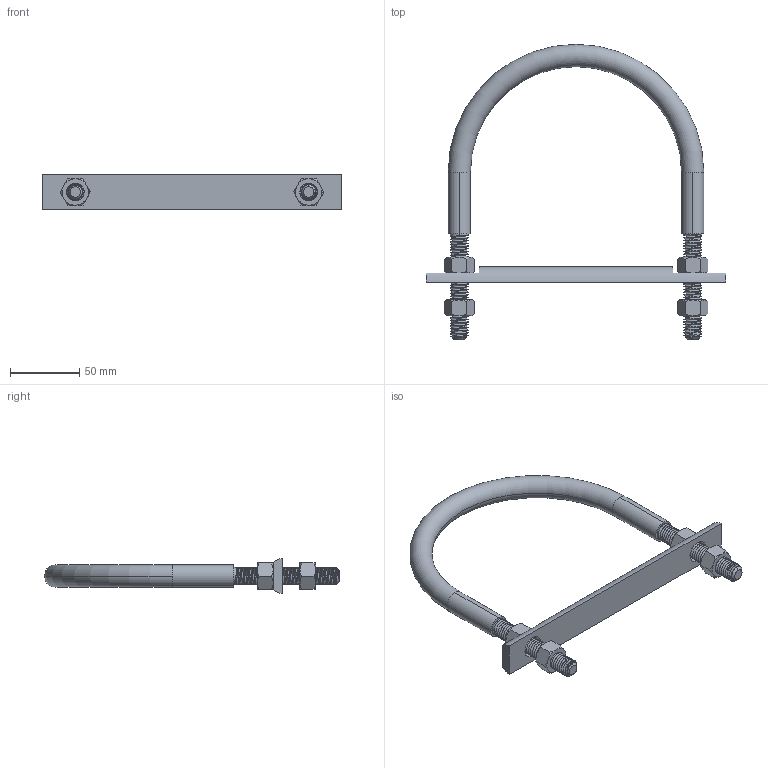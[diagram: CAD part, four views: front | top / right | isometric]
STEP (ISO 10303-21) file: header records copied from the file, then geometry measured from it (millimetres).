
FILE_DESCRIPTION (( 'STEP AP214' ), '1' );
FILE_NAME ('NUB1468.STEP', '2022-04-04T17:06:48', ( '' ), ( '' ), 'SwSTEP 2.0', 'SolidWorks 2021', '' );
FILE_SCHEMA (( 'AUTOMOTIVE_DESIGN' ));
Length unit declared in the file: inch
Products named in the file (4): UBT0995_UBT15-5-0.5-13 [NUB1468]; FAS0046; ROD0642_IR15-5 XL [ROD0642]; NUB1468
Assembly tree (6 placements, depth 2):
  NUB1468
    FAS0046  x4
    UBT0995_UBT15-5-0.5-13 [NUB1468]
    ROD0642_IR15-5 XL [ROD0642]
Bounding box: 215.9 x 212.82 x 25.27 mm (x, y, z)
Volume: 141865.9 mm3; surface area: 76786.4 mm2
Topology: 7 solids, 7 shells, 312 faces, 814 edges, 516 vertices
Faces by surface type: cylinder 179, cone 78, plane 45, torus 6, bspline 4
Entity records: 18245 total; most frequent: CARTESIAN_POINT 13045, ORIENTED_EDGE 1244, DIRECTION 820, EDGE_CURVE 622, VERTEX_POINT 408, AXIS2_PLACEMENT_3D 309, EDGE_LOOP 230, FACE_OUTER_BOUND 222
